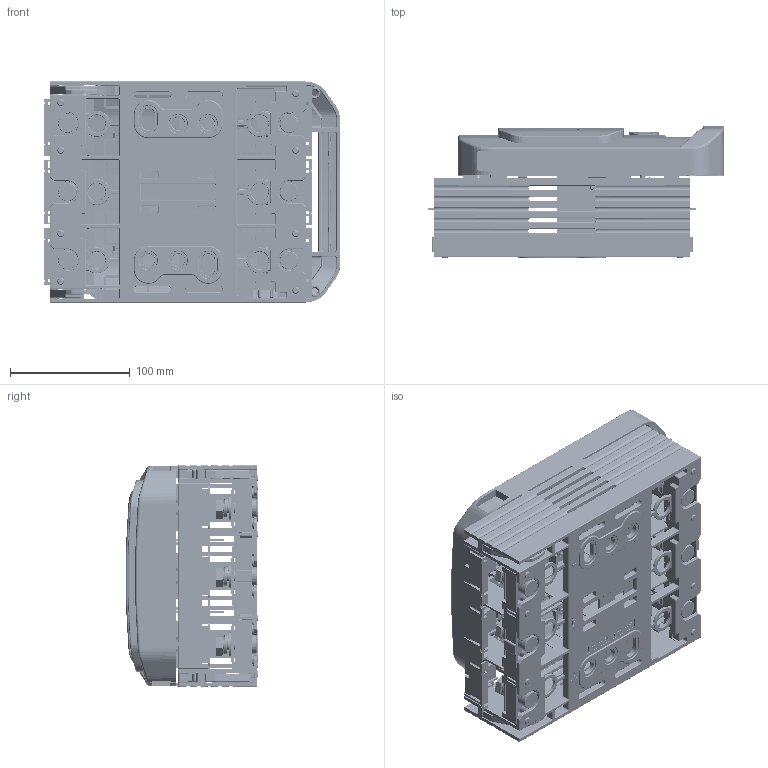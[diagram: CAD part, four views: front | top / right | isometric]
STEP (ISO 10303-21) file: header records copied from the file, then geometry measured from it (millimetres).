
FILE_DESCRIPTION (( 'STEP AP214' ), '1' );
FILE_NAME ('DNH1-250 30 新外观 外形与安装尺寸.STEP', '2022-03-11T03:09:40', ( '' ), ( '' ), 'SwSTEP 2.0', 'SolidWorks 2019', '' );
FILE_SCHEMA (( 'AUTOMOTIVE_DESIGN' ));
Length unit declared in the file: millimetre
Products named in the file (75): _X2_6A2A6761_X0__1; _10__1_2_1; _X2_53CC5B547D275B9A5757_X0__6; _X2_5FAE52A85F005173_X0__1; MIEHUZHAO_4_1; _X2_76F45F84_X0_5_X2_5E7357AB_X; DNH7-250_ZP_XJG_ASM; 鞠褒蹟隊 M10-20; _X2_87BA68137EC44EF6_X0__1_ASM; _X2_65B0_X0__1; _X2_89E659347EC44EF6_X0__1_ASM; _X2_76F45F84_X0_6_X2_5F3957AB_X; DNH1-250裔-陔俋夤; _10__2_1; _X2_87BA6BCD_X0__1; _X2_89E65934_X0__1; DNH1-250裔﹜醱啣-陔俋夤; _X2_4E0A7F69_X0__1; _X2_6A2A67617EC44EF6_X0__ASM; _X2_95015757538B677F_X0__2; _X2_706D5F277F69_X0__1_ASM; __4_3_1; _X2_5E955EA77EC44EF6_X0__1_ASM; _X2_4E0B7F69_X0__1; _X2_76F45F84_X0_5_X2_5F3957AB_X; _X2_76F45F84_X0_6_X2_5E7357AB_X; _X2_84DD827253614EF6_X0__2; M6X18__X2_87BA9489_X0_; DNH1-250醱啣-陔俋夤; 250ARDQ_2_2; _X2_5E955EA7_X0__26; DNH1-250 30 新外观 外形与安装尺寸; 沭羲 GRL 妀梓縐璃; _X2_53615708_X0__1
Assembly tree (70 placements, depth 6):
  _X2_5FAE52A85F005173_X0__1
  _X2_76F45F84_X0_5_X2_5E7357AB_X
  _X2_65B0_X0__1
  _X2_76F45F84_X0_6_X2_5F3957AB_X
  _X2_95015757538B677F_X0__2
Bounding box: 247 x 110.71 x 184.7 mm (x, y, z)
Volume: 572959.4 mm3; surface area: 590338 mm2
Topology: 53 solids, 54 shells, 8601 faces, 23178 edges, 14578 vertices
Faces by surface type: plane 3686, cylinder 2991, bspline 1594, torus 167, cone 155, sphere 8
Entity records: 388223 total; most frequent: CARTESIAN_POINT 185258, ORIENTED_EDGE 44637, DIRECTION 36219, EDGE_CURVE 22341, VERTEX_POINT 14100, VECTOR 12727, LINE 12727, AXIS2_PLACEMENT_3D 11746
